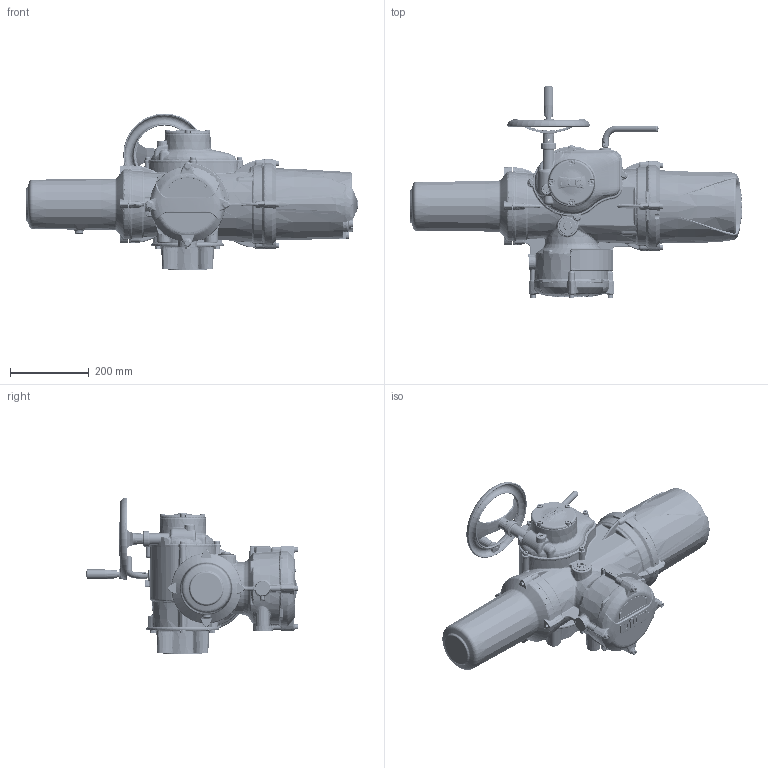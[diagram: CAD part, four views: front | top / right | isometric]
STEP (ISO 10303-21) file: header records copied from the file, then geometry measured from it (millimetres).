
FILE_DESCRIPTION(/* description */ ('Unknown'),/* implementation_level */ '2;1');
FILE_NAME(/* name */ 'IQ3H-2SP-SHW-B1-1',/* time_stamp */ '2021-03-29T10:42:43+01:00',/* author */ ('Unknown'),/* organization */ ('Unknown'),/* preprocessor_version */ 'ST-DEVELOPER v16.7',/* originating_system */ 'Solid Edge',/* authorisation */ 'Unknown');
FILE_SCHEMA (('AUTOMOTIVE_DESIGN {1 0 10303 214 3 1 1}'));
Length unit declared in the file: millimetre
Products named in the file (1): IQ3H-2SP-SHW-B1-1
Bounding box: 843.5 x 537.85 x 398.3 mm (x, y, z)
Volume: 550766 mm3; surface area: 1244640.6 mm2
Topology: 39 solids, 41 shells, 6055 faces, 15177 edges, 9021 vertices
Faces by surface type: bspline 2426, plane 1498, cylinder 774, torus 647, cone 522, sphere 188
Full cylindrical faces by diameter (mm): 1.152 x1, 3 x8, 6 x3, 6.2 x2, 6.45 x8, 6.47 x8, 6.5 x1, 7 x4, 7.6 x4, 8 x16, 8.1 x1, 8.2 x1, 8.5 x4, 9 x4, 9.7 x2, 10 x1, 11.78 x1, 12.1 x1, 13 x12, 13.25 x4, 14 x4, 14.376 x1, 15.5 x1, 15.84 x1, 16 x3, 16.75 x1, 17.02 x1, 24.75 x1, 24.78 x1, 26 x1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
Entity records: 269014 total; most frequent: CARTESIAN_POINT 105371, ORIENTED_EDGE 28684, DIRECTION 20525, EDGE_CURVE 14342, VERTEX_POINT 8787, AXIS2_PLACEMENT_3D 8747, FACE_BOUND 6583, EDGE_LOOP 6562
